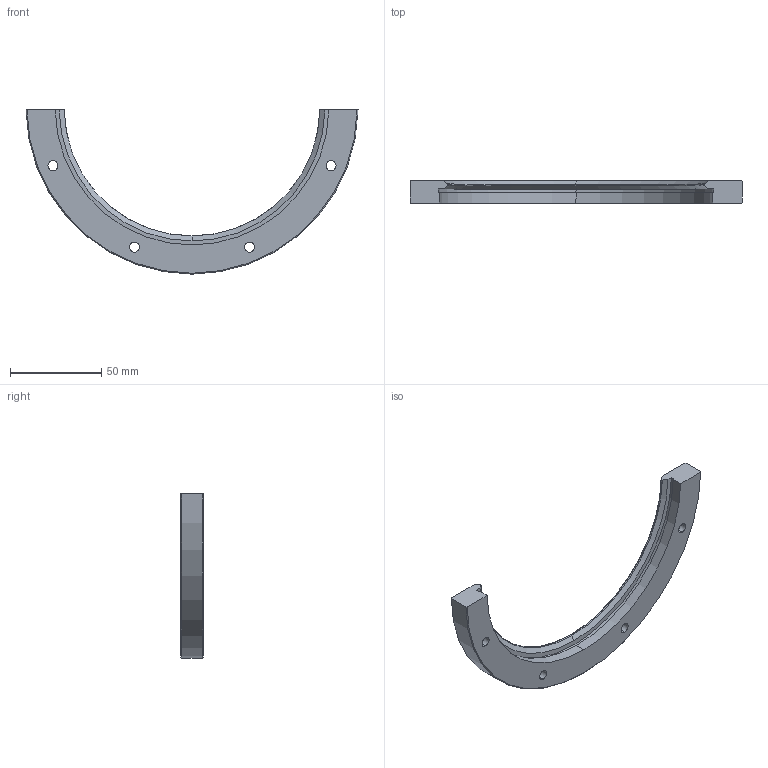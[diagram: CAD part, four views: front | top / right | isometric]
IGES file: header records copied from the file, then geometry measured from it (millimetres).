
Start section: 3D InterOp IGES (v. 2020 1.0.1), Spatial Corp. Copyright (c) 1999-2017.
Global section: file name: ris_182_r180.igs; native system: Spatial Corp.; preprocessor: 3D InterOp ACIS/IGES; author: TraceParts; organization: TraceParts S.A.; date: 20220624.060054; units: millimetre
Bounding box: 181.99 x 12.25 x 90 mm (x, y, z)
Surface area: 17672 mm2 (no closed solid volume)
Topology: 0 solids, 0 shells, 44 faces, 218 edges, 218 vertices
Faces by surface type: revolution 34, extrusion 10
